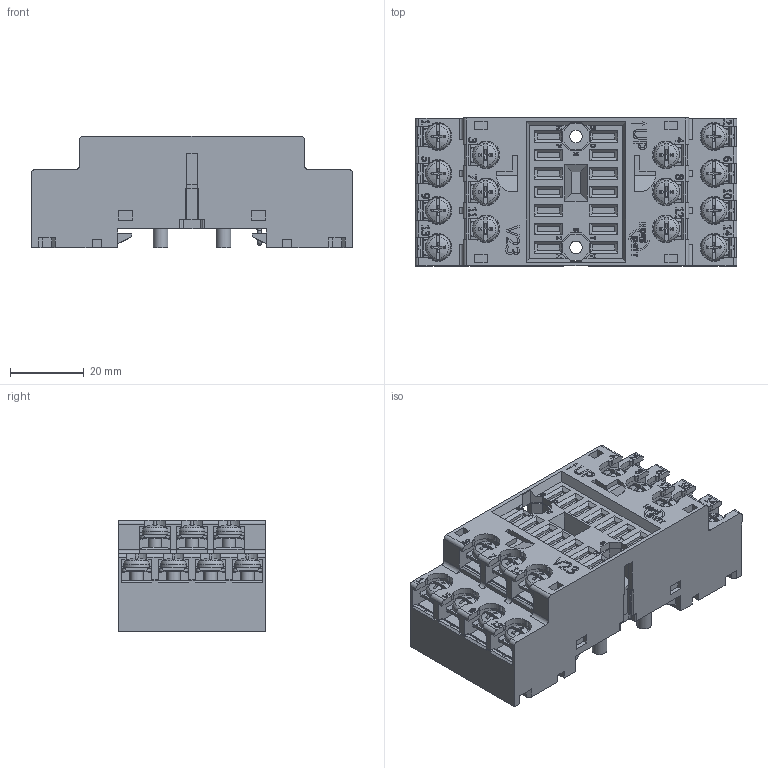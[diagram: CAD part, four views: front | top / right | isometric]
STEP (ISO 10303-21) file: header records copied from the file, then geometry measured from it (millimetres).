
FILE_DESCRIPTION((''),'2;1');
FILE_NAME('C:\Documents and Settings\a.vos\Bureaublad\V23 solid.stp','2010-10-26T09:14:29',('a.vos'),(''),'Autodesk Inventor 2011','Autodesk Inventor 2011','');
FILE_SCHEMA(('AUTOMOTIVE_DESIGN { 1 0 10303 214 1 1 1 1 }'));
Length unit declared in the file: millimetre
Products named in the file (1): V23 solid.0004
Bounding box: 87 x 40 x 30.12 mm (x, y, z)
Volume: 74646.7 mm3; surface area: 25904.1 mm2
Topology: 1 solids, 1 shells, 3834 faces, 10382 edges, 6682 vertices
Faces by surface type: plane 2966, cylinder 326, bspline 305, cone 154, torus 55, sphere 28
Full cylindrical faces by diameter (mm): 1 x12, 2 x6, 3 x4, 3.175 x14, 3.4 x2, 3.5 x28, 4 x6
Entity records: 124921 total; most frequent: CARTESIAN_POINT 27824, ORIENTED_EDGE 20390, DIRECTION 17359, EDGE_CURVE 10195, VECTOR 8055, LINE 8055, VERTEX_POINT 6610, AXIS2_PLACEMENT_3D 4652
